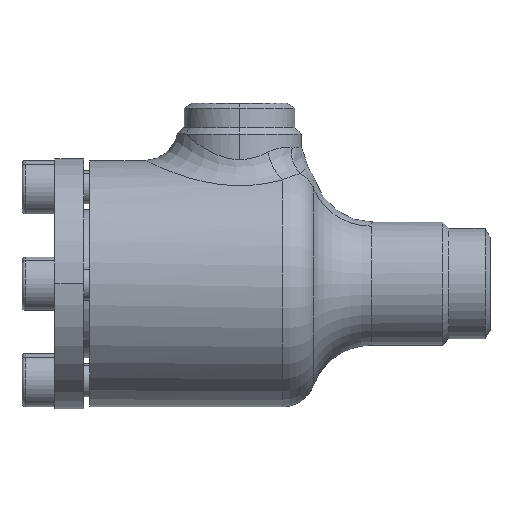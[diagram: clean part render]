
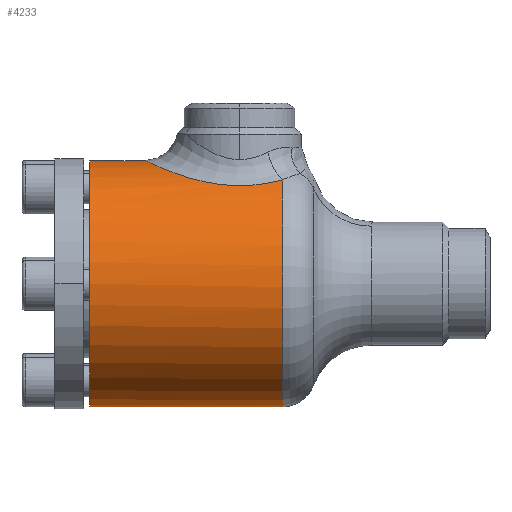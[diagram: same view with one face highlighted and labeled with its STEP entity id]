
A CAD part, left-side view. The second image highlights one B-rep face of the part: STEP entity #4233.
In plain terms, the highlighted cylindrical face has radius 30 mm (diameter 60 mm), a partial arc.
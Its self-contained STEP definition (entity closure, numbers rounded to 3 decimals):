
#2449 = VERTEX_POINT ( 'NONE', #10834 ) ;
#3545 = ORIENTED_EDGE ( 'NONE', *, *, #11210, .F. ) ;
#3809 = EDGE_CURVE ( 'NONE', #5045, #2449, #10027, .T. ) ;
#3860 = VERTEX_POINT ( 'NONE', #10081 ) ;
#4011 = EDGE_LOOP ( 'NONE', ( #3545, #4896, #4849, #4614, #4148 ) ) ;
#4148 = ORIENTED_EDGE ( 'NONE', *, *, #3809, .F. ) ;
#4233 = ADVANCED_FACE ( 'NONE', ( #10583 ), #10584, .T. ) ;
#4614 = ORIENTED_EDGE ( 'NONE', *, *, #5009, .T. ) ;
#4824 = EDGE_CURVE ( 'NONE', #4874, #3860, #8154, .T. ) ;
#4849 = ORIENTED_EDGE ( 'NONE', *, *, #4824, .T. ) ;
#4874 = VERTEX_POINT ( 'NONE', #9994 ) ;
#4881 = EDGE_CURVE ( 'NONE', #6422, #4874, #10180, .T. ) ;
#4896 = ORIENTED_EDGE ( 'NONE', *, *, #4881, .T. ) ;
#5009 = EDGE_CURVE ( 'NONE', #3860, #2449, #6880, .T. ) ;
#5045 = VERTEX_POINT ( 'NONE', #8287 ) ;
#6422 = VERTEX_POINT ( 'NONE', #8091 ) ;
#6880 = LINE ( 'NONE', #6881, #6882 ) ;
#6881 = CARTESIAN_POINT ( 'NONE',  ( 0., -55., 30. ) ) ;
#6882 = VECTOR ( 'NONE', #6883, 1000. ) ;
#6883 = DIRECTION ( 'NONE',  ( 0., 1., 0. ) ) ;
#8091 = CARTESIAN_POINT ( 'NONE',  ( 0., -47., -30. ) ) ;
#8154 = B_SPLINE_CURVE_WITH_KNOTS ( 'NONE', 3,
 ( #8155, #8156, #8157, #8158, #8159, #8161, #8162, #8163, #8164, #8165, #8166, #8167, #8168, #8169, #8170, #8171, #8172, #8173, #8174, #8175, #8176, #8177, #8178, #8179, #8180, #8181, #8182, #8183, #8184, #8185, #8186, #8187, #8188, #8189, #8190, #8191, #8192, #8193 ),
 .UNSPECIFIED., .F., .F.,
 ( 4, 2, 2, 2, 2, 2, 2, 2, 2, 2, 2, 2, 2, 2, 2, 2, 2, 2, 4 ),
 ( 0., 0.005, 0.008, 0.011, 0.012, 0.014, 0.016, 0.019, 0.022, 0.025, 0.027, 0.03, 0.033, 0.036, 0.037, 0.038, 0.04, 0.041, 0.044 ),
 .UNSPECIFIED. ) ;
#8155 = CARTESIAN_POINT ( 'NONE',  ( -16.155, -47., 25.279 ) ) ;
#8156 = CARTESIAN_POINT ( 'NONE',  ( -16.828, -45.338, 24.848 ) ) ;
#8157 = CARTESIAN_POINT ( 'NONE',  ( -17.328, -43.616, 24.493 ) ) ;
#8158 = CARTESIAN_POINT ( 'NONE',  ( -17.832, -40.935, 24.126 ) ) ;
#8159 = CARTESIAN_POINT ( 'NONE',  ( -17.958, -40.023, 24.032 ) ) ;
#8161 = CARTESIAN_POINT ( 'NONE',  ( -18.122, -38.204, 23.908 ) ) ;
#8162 = CARTESIAN_POINT ( 'NONE',  ( -18.161, -37.293, 23.878 ) ) ;
#8163 = CARTESIAN_POINT ( 'NONE',  ( -18.156, -35.923, 23.882 ) ) ;
#8164 = CARTESIAN_POINT ( 'NONE',  ( -18.143, -35.466, 23.892 ) ) ;
#8165 = CARTESIAN_POINT ( 'NONE',  ( -18.096, -34.55, 23.928 ) ) ;
#8166 = CARTESIAN_POINT ( 'NONE',  ( -18.062, -34.091, 23.954 ) ) ;
#8167 = CARTESIAN_POINT ( 'NONE',  ( -17.926, -32.721, 24.056 ) ) ;
#8168 = CARTESIAN_POINT ( 'NONE',  ( -17.793, -31.82, 24.155 ) ) ;
#8169 = CARTESIAN_POINT ( 'NONE',  ( -17.442, -30.042, 24.409 ) ) ;
#8170 = CARTESIAN_POINT ( 'NONE',  ( -17.225, -29.165, 24.564 ) ) ;
#8171 = CARTESIAN_POINT ( 'NONE',  ( -16.704, -27.436, 24.921 ) ) ;
#8172 = CARTESIAN_POINT ( 'NONE',  ( -16.402, -26.59, 25.122 ) ) ;
#8173 = CARTESIAN_POINT ( 'NONE',  ( -15.719, -24.949, 25.555 ) ) ;
#8174 = CARTESIAN_POINT ( 'NONE',  ( -15.337, -24.151, 25.788 ) ) ;
#8175 = CARTESIAN_POINT ( 'NONE',  ( -14.485, -22.599, 26.276 ) ) ;
#8176 = CARTESIAN_POINT ( 'NONE',  ( -14.015, -21.845, 26.531 ) ) ;
#8177 = CARTESIAN_POINT ( 'NONE',  ( -12.999, -20.412, 27.043 ) ) ;
#8178 = CARTESIAN_POINT ( 'NONE',  ( -12.452, -19.731, 27.301 ) ) ;
#8179 = CARTESIAN_POINT ( 'NONE',  ( -11.27, -18.439, 27.81 ) ) ;
#8180 = CARTESIAN_POINT ( 'NONE',  ( -10.635, -17.829, 28.061 ) ) ;
#8181 = CARTESIAN_POINT ( 'NONE',  ( -9.263, -16.69, 28.544 ) ) ;
#8182 = CARTESIAN_POINT ( 'NONE',  ( -8.539, -16.173, 28.77 ) ) ;
#8183 = CARTESIAN_POINT ( 'NONE',  ( -7.392, -15.485, 29.078 ) ) ;
#8184 = CARTESIAN_POINT ( 'NONE',  ( -6.999, -15.27, 29.175 ) ) ;
#8185 = CARTESIAN_POINT ( 'NONE',  ( -6.191, -14.871, 29.357 ) ) ;
#8186 = CARTESIAN_POINT ( 'NONE',  ( -5.774, -14.687, 29.442 ) ) ;
#8187 = CARTESIAN_POINT ( 'NONE',  ( -4.926, -14.355, 29.596 ) ) ;
#8188 = CARTESIAN_POINT ( 'NONE',  ( -4.494, -14.208, 29.665 ) ) ;
#8189 = CARTESIAN_POINT ( 'NONE',  ( -3.613, -13.953, 29.785 ) ) ;
#8190 = CARTESIAN_POINT ( 'NONE',  ( -3.167, -13.845, 29.836 ) ) ;
#8191 = CARTESIAN_POINT ( 'NONE',  ( -1.824, -13.588, 29.958 ) ) ;
#8192 = CARTESIAN_POINT ( 'NONE',  ( -0.918, -13.5, 30. ) ) ;
#8193 = CARTESIAN_POINT ( 'NONE',  ( 0., -13.5, 30. ) ) ;
#8287 = CARTESIAN_POINT ( 'NONE',  ( 0., 0., -30. ) ) ;
#8658 = LINE ( 'NONE', #8659, #8660 ) ;
#8659 = CARTESIAN_POINT ( 'NONE',  ( 0., -55., -30. ) ) ;
#8660 = VECTOR ( 'NONE', #8661, 1000. ) ;
#8661 = DIRECTION ( 'NONE',  ( 0., 1., 0. ) ) ;
#9994 = CARTESIAN_POINT ( 'NONE',  ( -16.155, -47., 25.279 ) ) ;
#10027 = CIRCLE ( 'NONE', #10028, 30. ) ;
#10028 = AXIS2_PLACEMENT_3D ( 'NONE', #10029, #10030, #10031 ) ;
#10029 = CARTESIAN_POINT ( 'NONE',  ( 0., 0., 0. ) ) ;
#10030 = DIRECTION ( 'NONE',  ( 0., 1., 0. ) ) ;
#10031 = DIRECTION ( 'NONE',  ( 0., 0., 1. ) ) ;
#10081 = CARTESIAN_POINT ( 'NONE',  ( 0., -13.5, 30. ) ) ;
#10180 = CIRCLE ( 'NONE', #10181, 30. ) ;
#10181 = AXIS2_PLACEMENT_3D ( 'NONE', #10182, #10183, #10184 ) ;
#10182 = CARTESIAN_POINT ( 'NONE',  ( 0., -47., 0. ) ) ;
#10183 = DIRECTION ( 'NONE',  ( 0., 1., 0. ) ) ;
#10184 = DIRECTION ( 'NONE',  ( 0., 0., 1. ) ) ;
#10583 = FACE_OUTER_BOUND ( 'NONE', #4011, .T. ) ;
#10584 = CYLINDRICAL_SURFACE ( 'NONE', #10585, 30. ) ;
#10585 = AXIS2_PLACEMENT_3D ( 'NONE', #10586, #10587, #10588 ) ;
#10586 = CARTESIAN_POINT ( 'NONE',  ( 0., -55., 0. ) ) ;
#10587 = DIRECTION ( 'NONE',  ( 0., 1., 0. ) ) ;
#10588 = DIRECTION ( 'NONE',  ( 0., 0., 1. ) ) ;
#10834 = CARTESIAN_POINT ( 'NONE',  ( 0., 0., 30. ) ) ;
#11210 = EDGE_CURVE ( 'NONE', #6422, #5045, #8658, .T. ) ;
